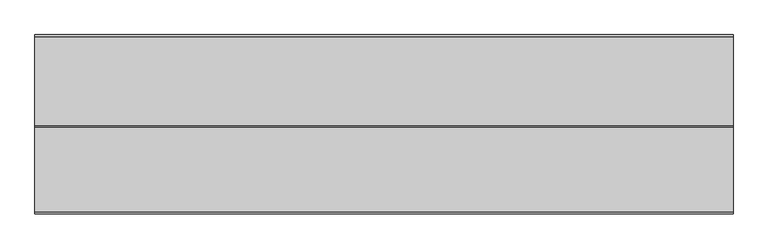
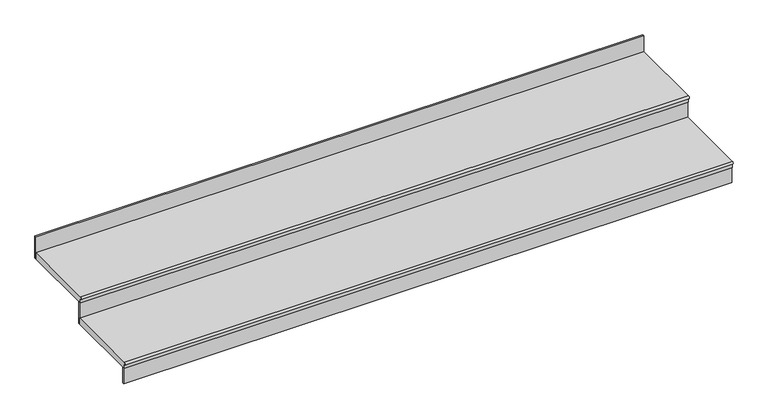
"""IFC4 building model written with IfcOpenShell, lengths in millimetres: stair flight geometry, Wood Steps with 50 mm Tread 20 mm Nosing 13 mm Riser."""

from ifc_helpers import new_model, si_unit, point, frame, frame_2d, origin, place, context, project, spatial, polyline, circle_curve, trimmed, segment, composite_curve, outline, extrude, source, transform, mapped, element, save


def stair_flight_363eaef6(model_context):
    return source(origin(), model_context, "Body", "SweptSolid", [
        extrude(outline(composite_curve([segment(polyline([(-2948.8436153, 8579.2941176), (-2350.4328433, 8579.2941176), (-2350.4328433, 8529.2941176), (-2948.8436153, 8529.2941176), (-2948.8436153, 8559.2941176)]), True, "CONTINUOUS"), segment(trimmed(circle_curve(frame_2d((-2948.8436153, 8569.2941176)), 10.0), [point((-2948.8436153, 8559.2941176))], [point((-2948.8436153, 8579.2941176))], False, "CARTESIAN"), True, "CONTINUOUS")], self_intersect=False)), frame((978505.0368874, 0.0, 0.0), z_axis=(1.0, 0.0, 0.0), x_axis=(0.0, 1.0, 0.0)), (0.0, 0.0, 1.0), 4704.3823152),
        extrude(outline(polyline([(983209.4192027, -2926.3436153), (983209.4192027, -2938.8436153), (978505.0368874, -2938.8436153), (978505.0368874, -2926.3436153), (983209.4192027, -2926.3436153)])), frame((0.0, 0.0, 8400.0), z_axis=(0.0, 0.0, 1.0), x_axis=(1.0, 0.0, 0.0)), (0.0, 0.0, 1.0), 129.2941176),
        extrude(outline(polyline([(983209.4192027, -2337.9328433), (983209.4192027, -2350.4328433), (978505.0368874, -2350.4328433), (978505.0368874, -2337.9328433), (983209.4192027, -2337.9328433)])), frame((0.0, 0.0, 8529.2941176), z_axis=(0.0, 0.0, 1.0), x_axis=(1.0, 0.0, 0.0)), (0.0, 0.0, 1.0), 179.2941176),
        extrude(outline(polyline([(983209.4192027, -1749.5220713), (983209.4192027, -1762.0220713), (978505.0368874, -1762.0220713), (978505.0368874, -1749.5220713), (983209.4192027, -1749.5220713)])), frame((0.0, 0.0, 8708.5882353), z_axis=(0.0, 0.0, 1.0), x_axis=(1.0, 0.0, 0.0)), (0.0, 0.0, 1.0), 179.2941176),
        extrude(outline(composite_curve([segment(polyline([(-2360.4328433, 8758.5882353), (-1762.0220713, 8758.5882353), (-1762.0220713, 8708.5882353), (-2360.4328433, 8708.5882353), (-2360.4328433, 8738.5882353)]), True, "CONTINUOUS"), segment(trimmed(circle_curve(frame_2d((-2360.4328433, 8748.5882353)), 10.0), [point((-2360.4328433, 8738.5882353))], [point((-2360.4328433, 8758.5882353))], False, "CARTESIAN"), True, "CONTINUOUS")], self_intersect=False)), frame((978505.0368874, 0.0, 0.0), z_axis=(1.0, 0.0, 0.0), x_axis=(0.0, 1.0, 0.0)), (0.0, 0.0, 1.0), 4704.3823152),
    ])


if __name__ == "__main__":
    model = new_model("IFC4")
    model_context = context("Model", 3, world=origin())
    ifc_project = project(units=[si_unit("LENGTHUNIT", "METRE", prefix="MILLI")], contexts=[model_context])
    site = spatial("IfcSite", under=ifc_project)
    building = spatial("IfcBuilding", under=site)
    placement = place(None, origin())
    stair_flight_shape = stair_flight_363eaef6(model_context)
    element("IfcStairFlight", 1, ObjectType="Wood Steps with 50 mm Tread 20 mm Nosing 13 mm Riser", at=placement, inside=building, context=model_context, shape_type="MappedRepresentation", body=[
        mapped(stair_flight_shape, transform((0.0, 0.0, 0.0), x_axis=(1.0, 0.0, 0.0), y_axis=(0.0, 1.0, 0.0), z_axis=(0.0, 0.0, 1.0))),
    ])
    save(model, "model.ifc")
